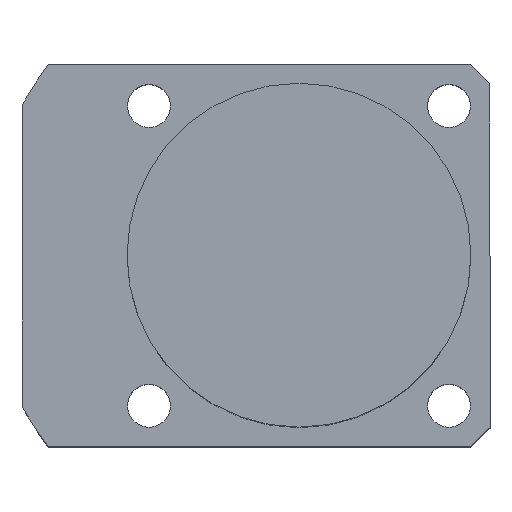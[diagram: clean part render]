
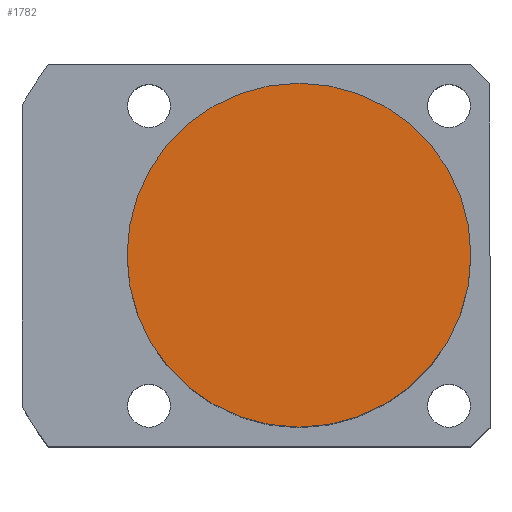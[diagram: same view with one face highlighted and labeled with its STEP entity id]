
A CAD part, top view. The second image highlights one B-rep face of the part: STEP entity #1782.
In plain terms, the highlighted planar face has unit normal (0, 0, 1).
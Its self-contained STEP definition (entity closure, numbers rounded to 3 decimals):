
#56 = CIRCLE ( 'NONE', #1370, 18. ) ;
#65 = CIRCLE ( 'NONE', #1992, 18. ) ;
#109 = DIRECTION ( 'NONE',  ( 0., 0., 1. ) ) ;
#151 = VERTEX_POINT ( 'NONE', #209 ) ;
#195 = ORIENTED_EDGE ( 'NONE', *, *, #1641, .T. ) ;
#205 = FACE_OUTER_BOUND ( 'NONE', #2094, .T. ) ;
#209 = CARTESIAN_POINT ( 'NONE',  ( 18., 0., 48.5 ) ) ;
#429 = CARTESIAN_POINT ( 'NONE',  ( 0., 0., 48.5 ) ) ;
#588 = DIRECTION ( 'NONE',  ( 0., 0., 1. ) ) ;
#627 = CARTESIAN_POINT ( 'NONE',  ( -18., 0., 48.5 ) ) ;
#718 = ORIENTED_EDGE ( 'NONE', *, *, #1001, .T. ) ;
#739 = PLANE ( 'NONE',  #1162 ) ;
#794 = VERTEX_POINT ( 'NONE', #627 ) ;
#1001 = EDGE_CURVE ( 'NONE', #794, #151, #65, .T. ) ;
#1033 = DIRECTION ( 'NONE',  ( 1., 0., 0. ) ) ;
#1094 = DIRECTION ( 'NONE',  ( 1., 0., 0. ) ) ;
#1162 = AXIS2_PLACEMENT_3D ( 'NONE', #1245, #588, #1094 ) ;
#1229 = CARTESIAN_POINT ( 'NONE',  ( 0., 0., 48.5 ) ) ;
#1245 = CARTESIAN_POINT ( 'NONE',  ( 0., 0., 48.5 ) ) ;
#1370 = AXIS2_PLACEMENT_3D ( 'NONE', #1229, #2016, #1033 ) ;
#1461 = DIRECTION ( 'NONE',  ( 1., 0., 0. ) ) ;
#1641 = EDGE_CURVE ( 'NONE', #151, #794, #56, .T. ) ;
#1782 = ADVANCED_FACE ( 'NONE', ( #205 ), #739, .T. ) ;
#1992 = AXIS2_PLACEMENT_3D ( 'NONE', #429, #109, #1461 ) ;
#2016 = DIRECTION ( 'NONE',  ( 0., 0., 1. ) ) ;
#2094 = EDGE_LOOP ( 'NONE', ( #718, #195 ) ) ;
